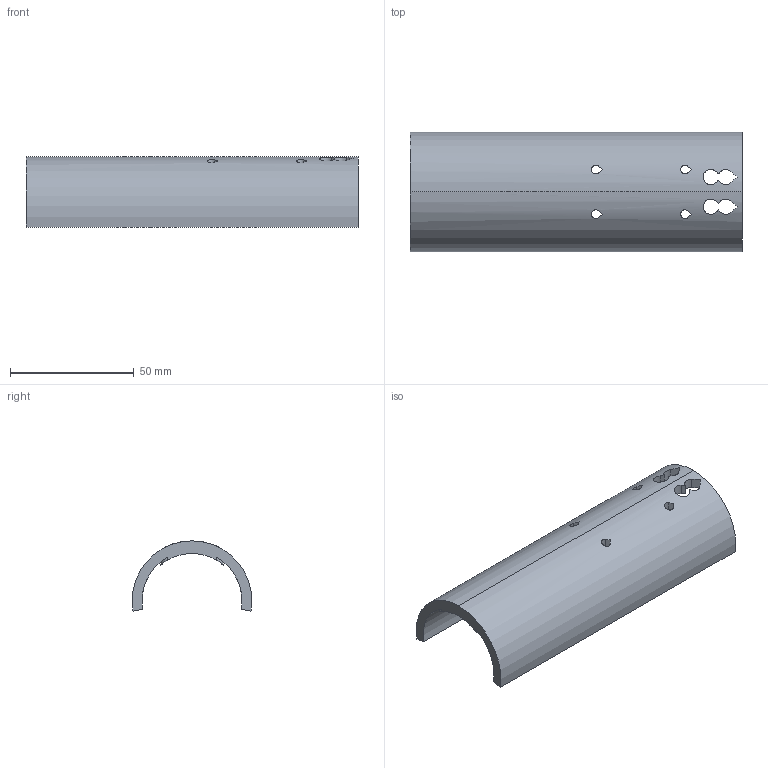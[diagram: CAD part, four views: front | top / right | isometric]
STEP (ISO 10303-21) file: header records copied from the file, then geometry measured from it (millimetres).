
FILE_DESCRIPTION(('SkyG Speed 90B - revision C6B-24 - 2026-10-17','DG-drill-guide'),'2;1');
FILE_NAME('DG-drill-guide_C6B-24','2026-10-17T19:57:43',('Author'),( 'Open CASCADE'),'Open CASCADE STEP processor 7.9','Open CASCADE 7.9' ,'Unknown');
FILE_SCHEMA(('AUTOMOTIVE_DESIGN { 1 0 10303 214 1 1 1 1 }'));
Length unit declared in the file: millimetre
Products named in the file (1): DG-drill-guide C6B-24
Bounding box: 134 x 48.3 x 28.34 mm (x, y, z)
Volume: 40956.9 mm3; surface area: 22645.7 mm2
Topology: 1 solids, 1 shells, 42 faces, 120 edges, 80 vertices
Faces by surface type: plane 23, cylinder 19
Entity records: 6795 total; most frequent: CARTESIAN_POINT 4579, DIRECTION 349, ORIENTED_EDGE 240, PCURVE 240, DEFINITIONAL_REPRESENTATION 240, B_SPLINE_CURVE_WITH_KNOTS 140, LINE 132, VECTOR 132
